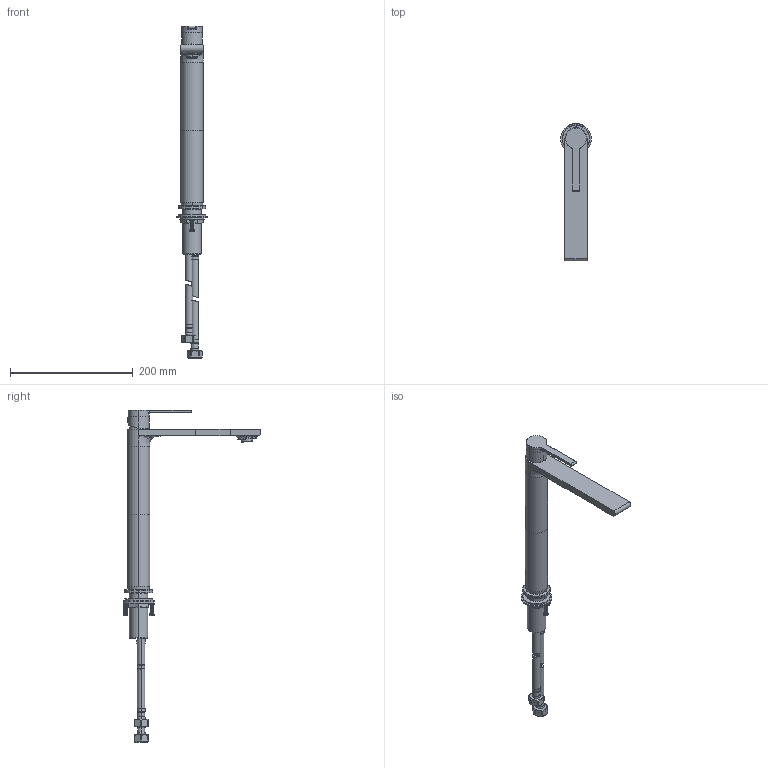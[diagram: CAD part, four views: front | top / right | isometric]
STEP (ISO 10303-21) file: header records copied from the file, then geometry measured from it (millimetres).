
FILE_DESCRIPTION((''),'2;1');
FILE_NAME('1152500_ASM_ASM','2022-11-30T',('Administrator'),(''),'PRO/ENGINEER BY PARAMETRIC TECHNOLOGY CORPORATION, 2015240','PRO/ENGINEER BY PARAMETRIC TECHNOLOGY CORPORATION, 2015240','');
FILE_SCHEMA(('CONFIG_CONTROL_DESIGN'));
Products named in the file (30): 511525-0100_AF0_3; 65306241_1; 511520-0400_2; 61518442_4; 61325322_2; 61625242_1; 61625712_7; 61326499_13; 511454-03-122_AF0_2; 7617209-0122_9; 7617204-0222-UPC_1; 7617208-0122_7; 511454-0300_AF0_ASM_6_ASM; 61500842_AF1_1; 61101912_1; 60722641_AF2_1; 61319322_AF2_1; 61818900_AF2_2; MANIFOLD_SOLID_BREP_46023; MANIFOLD_SOLID_BREP_47463; 61710312_AF0_1_ASM; 60932300_1; 61100112_AF1_1; 61800800_AF0_1; MANIFOLD_SOLID_BREP_75849; MANIFOLD_SOLID_BREP_77289; 61710312_1_ASM; 61107512_4; 1152500_ASM_4_ASM; 1152500_ASM_ASM
Assembly tree (31 placements, depth 4):
  1152500_ASM_ASM
    1152500_ASM_4_ASM
      511525-0100_AF0_3
      65306241_1
      511520-0400_2
      61518442_4
      61325322_2
      61625242_1
      61625712_7
      61326499_13
      511454-0300_AF0_ASM_6_ASM
        511454-03-122_AF0_2
        7617209-0122_9
        7617204-0222-UPC_1  x2
        7617208-0122_7
      61500842_AF1_1
      61101912_1
      60722641_AF2_1
      61319322_AF2_1
      61818900_AF2_2
      61710312_AF0_1_ASM
        MANIFOLD_SOLID_BREP_46023
        MANIFOLD_SOLID_BREP_47463
      60932300_1
      61100112_AF1_1
      61800800_AF0_1
      61710312_1_ASM
        MANIFOLD_SOLID_BREP_75849
        MANIFOLD_SOLID_BREP_77289
      61107512_4  x2
Bounding box: 50 x 224.5 x 540.2 mm (x, y, z)
Volume: 249808.3 mm3; surface area: 204651 mm2
Topology: 27 solids, 47 shells, 2092 faces, 5573 edges, 3687 vertices
Faces by surface type: plane 874, cylinder 767, cone 151, bspline 139, torus 122, extrusion 29, revolution 6, sphere 4
Entity records: 84710 total; most frequent: CARTESIAN_POINT 34684, ORIENTED_EDGE 10476, DIRECTION 10198, EDGE_CURVE 5277, AXIS2_PLACEMENT_3D 3866, VERTEX_POINT 3486, VECTOR 2462, LINE 2433
